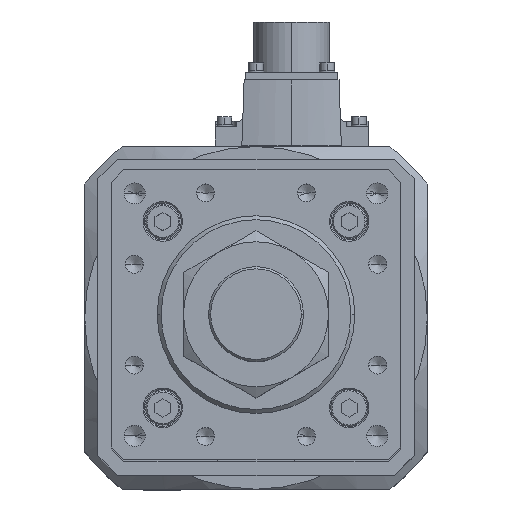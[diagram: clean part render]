
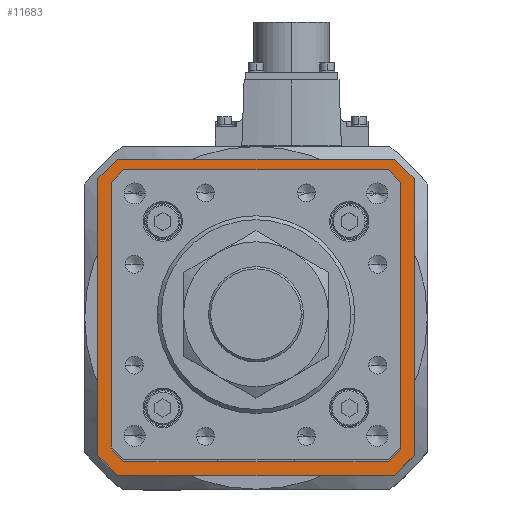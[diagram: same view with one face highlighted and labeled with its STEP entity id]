
A CAD part, top view. The second image highlights one B-rep face of the part: STEP entity #11683.
In plain terms, the highlighted planar face has unit normal (0, 0, 1).
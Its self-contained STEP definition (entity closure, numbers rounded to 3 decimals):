
#839 = LINE ( 'NONE', #12484, #9534 ) ;
#976 = DIRECTION ( 'NONE',  ( 0.707, 0.707, 0. ) ) ;
#1102 = DIRECTION ( 'NONE',  ( -1., 0., 0. ) ) ;
#1626 = CARTESIAN_POINT ( 'NONE',  ( 53.5, 49.593, -119. ) ) ;
#1716 = DIRECTION ( 'NONE',  ( 0., 1., 0. ) ) ;
#2121 = DIRECTION ( 'NONE',  ( 1., 0., 0. ) ) ;
#2127 = EDGE_CURVE ( 'NONE', #36021, #26170, #13682, .T. ) ;
#2142 = VERTEX_POINT ( 'NONE', #21181 ) ;
#2694 = VECTOR ( 'NONE', #11014, 1000. ) ;
#3162 = ORIENTED_EDGE ( 'NONE', *, *, #27899, .F. ) ;
#3385 = FACE_OUTER_BOUND ( 'NONE', #4732, .T. ) ;
#3432 = CARTESIAN_POINT ( 'NONE',  ( 49.446, -53.646, -119. ) ) ;
#3576 = CARTESIAN_POINT ( 'NONE',  ( 60., 52.5, -119. ) ) ;
#3976 = VECTOR ( 'NONE', #26134, 1000. ) ;
#4153 = LINE ( 'NONE', #20704, #25891 ) ;
#4732 = EDGE_LOOP ( 'NONE', ( #35945, #27124, #17310, #8509, #14135, #3162, #36417, #11165 ) ) ;
#4811 = EDGE_CURVE ( 'NONE', #25048, #8400, #22829, .T. ) ;
#4967 = ORIENTED_EDGE ( 'NONE', *, *, #35923, .T. ) ;
#5814 = VECTOR ( 'NONE', #32061, 1000. ) ;
#5867 = EDGE_CURVE ( 'NONE', #17968, #8731, #4153, .T. ) ;
#6456 = CARTESIAN_POINT ( 'NONE',  ( -60., 52.5, -119. ) ) ;
#6519 = ORIENTED_EDGE ( 'NONE', *, *, #2127, .T. ) ;
#6697 = VECTOR ( 'NONE', #1716, 1000. ) ;
#7328 = EDGE_CURVE ( 'NONE', #15823, #10711, #21709, .T. ) ;
#7738 = CARTESIAN_POINT ( 'NONE',  ( -53.5, -49.593, -119. ) ) ;
#7823 = EDGE_CURVE ( 'NONE', #8731, #20785, #8083, .T. ) ;
#8083 = LINE ( 'NONE', #23379, #3976 ) ;
#8321 = EDGE_LOOP ( 'NONE', ( #18821, #9005, #19468, #4967, #9014, #15619, #32481, #6519 ) ) ;
#8400 = VERTEX_POINT ( 'NONE', #23466 ) ;
#8502 = EDGE_CURVE ( 'NONE', #8651, #2142, #24794, .T. ) ;
#8509 = ORIENTED_EDGE ( 'NONE', *, *, #28378, .F. ) ;
#8651 = VERTEX_POINT ( 'NONE', #18257 ) ;
#8731 = VERTEX_POINT ( 'NONE', #1626 ) ;
#8780 = EDGE_CURVE ( 'NONE', #26170, #17968, #34321, .T. ) ;
#9005 = ORIENTED_EDGE ( 'NONE', *, *, #5867, .T. ) ;
#9014 = ORIENTED_EDGE ( 'NONE', *, *, #4811, .T. ) ;
#9067 = CARTESIAN_POINT ( 'NONE',  ( -52.5, -60., -119. ) ) ;
#9465 = DIRECTION ( 'NONE',  ( 0.707, 0.707, 0. ) ) ;
#9534 = VECTOR ( 'NONE', #9465, 1000. ) ;
#9692 = CARTESIAN_POINT ( 'NONE',  ( 52.5, 60., -119. ) ) ;
#9766 = VECTOR ( 'NONE', #26618, 1000. ) ;
#10698 = EDGE_CURVE ( 'NONE', #24889, #12362, #17471, .T. ) ;
#10711 = VERTEX_POINT ( 'NONE', #24226 ) ;
#10805 = VECTOR ( 'NONE', #26683, 1000. ) ;
#11014 = DIRECTION ( 'NONE',  ( -1., 0., 0. ) ) ;
#11165 = ORIENTED_EDGE ( 'NONE', *, *, #30742, .F. ) ;
#11176 = CARTESIAN_POINT ( 'NONE',  ( 49.593, -53.5, -119. ) ) ;
#11683 = ADVANCED_FACE ( 'NONE', ( #24284, #3385 ), #28838, .T. ) ;
#12362 = VERTEX_POINT ( 'NONE', #15760 ) ;
#12484 = CARTESIAN_POINT ( 'NONE',  ( -52.5, 60., -119. ) ) ;
#12891 = DIRECTION ( 'NONE',  ( 0., 0., 1. ) ) ;
#13342 = CARTESIAN_POINT ( 'NONE',  ( -52.5, 60., -119. ) ) ;
#13468 = VERTEX_POINT ( 'NONE', #7738 ) ;
#13682 = LINE ( 'NONE', #29510, #22289 ) ;
#14135 = ORIENTED_EDGE ( 'NONE', *, *, #31635, .F. ) ;
#15099 = DIRECTION ( 'NONE',  ( 0., 1., 0. ) ) ;
#15348 = LINE ( 'NONE', #21013, #10805 ) ;
#15619 = ORIENTED_EDGE ( 'NONE', *, *, #17089, .T. ) ;
#15724 = DIRECTION ( 'NONE',  ( -0.707, 0.707, 0. ) ) ;
#15760 = CARTESIAN_POINT ( 'NONE',  ( 52.5, 60., -119. ) ) ;
#15823 = VERTEX_POINT ( 'NONE', #3576 ) ;
#15891 = DIRECTION ( 'NONE',  ( 0.707, -0.707, 0. ) ) ;
#16071 = CARTESIAN_POINT ( 'NONE',  ( 53.5, -49.593, -119. ) ) ;
#17007 = LINE ( 'NONE', #23567, #33362 ) ;
#17089 = EDGE_CURVE ( 'NONE', #8400, #13468, #15348, .T. ) ;
#17270 = VECTOR ( 'NONE', #37234, 1000. ) ;
#17310 = ORIENTED_EDGE ( 'NONE', *, *, #8502, .F. ) ;
#17471 = LINE ( 'NONE', #9692, #18861 ) ;
#17659 = CARTESIAN_POINT ( 'NONE',  ( 60., -52.5, -119. ) ) ;
#17968 = VERTEX_POINT ( 'NONE', #32173 ) ;
#18012 = VECTOR ( 'NONE', #15099, 1000. ) ;
#18057 = LINE ( 'NONE', #28088, #6697 ) ;
#18257 = CARTESIAN_POINT ( 'NONE',  ( -60., -52.5, -119. ) ) ;
#18328 = DIRECTION ( 'NONE',  ( 1., 0., 0. ) ) ;
#18456 = CARTESIAN_POINT ( 'NONE',  ( 0., 0., -119. ) ) ;
#18821 = ORIENTED_EDGE ( 'NONE', *, *, #8780, .T. ) ;
#18861 = VECTOR ( 'NONE', #20948, 1000. ) ;
#19391 = CARTESIAN_POINT ( 'NONE',  ( 49.8, 53.5, -119. ) ) ;
#19468 = ORIENTED_EDGE ( 'NONE', *, *, #7823, .T. ) ;
#19984 = LINE ( 'NONE', #34318, #17270 ) ;
#19990 = CARTESIAN_POINT ( 'NONE',  ( 52.5, -60., -119. ) ) ;
#20519 = AXIS2_PLACEMENT_3D ( 'NONE', #18456, #12891, #18328 ) ;
#20704 = CARTESIAN_POINT ( 'NONE',  ( 53.646, 49.446, -119. ) ) ;
#20785 = VERTEX_POINT ( 'NONE', #16071 ) ;
#20948 = DIRECTION ( 'NONE',  ( 1., 0., 0. ) ) ;
#21013 = CARTESIAN_POINT ( 'NONE',  ( -53.646, -49.446, -119. ) ) ;
#21181 = CARTESIAN_POINT ( 'NONE',  ( -60., 52.5, -119. ) ) ;
#21549 = CARTESIAN_POINT ( 'NONE',  ( -49.8, -53.5, -119. ) ) ;
#21709 = LINE ( 'NONE', #32175, #5814 ) ;
#22183 = CARTESIAN_POINT ( 'NONE',  ( -53.5, 49.593, -119. ) ) ;
#22289 = VECTOR ( 'NONE', #976, 1000. ) ;
#22829 = LINE ( 'NONE', #21549, #30113 ) ;
#23362 = CARTESIAN_POINT ( 'NONE',  ( -49.593, 53.5, -119. ) ) ;
#23379 = CARTESIAN_POINT ( 'NONE',  ( 53.5, -49.8, -119. ) ) ;
#23466 = CARTESIAN_POINT ( 'NONE',  ( -49.593, -53.5, -119. ) ) ;
#23567 = CARTESIAN_POINT ( 'NONE',  ( -52.5, -60., -119. ) ) ;
#23947 = EDGE_CURVE ( 'NONE', #13468, #36021, #18057, .T. ) ;
#24226 = CARTESIAN_POINT ( 'NONE',  ( 60., -52.5, -119. ) ) ;
#24284 = FACE_BOUND ( 'NONE', #8321, .T. ) ;
#24794 = LINE ( 'NONE', #6456, #18012 ) ;
#24889 = VERTEX_POINT ( 'NONE', #13342 ) ;
#25048 = VERTEX_POINT ( 'NONE', #11176 ) ;
#25891 = VECTOR ( 'NONE', #15891, 1000. ) ;
#26134 = DIRECTION ( 'NONE',  ( 0., -1., 0. ) ) ;
#26170 = VERTEX_POINT ( 'NONE', #23362 ) ;
#26343 = CARTESIAN_POINT ( 'NONE',  ( 52.5, -60., -119. ) ) ;
#26618 = DIRECTION ( 'NONE',  ( -0.707, -0.707, 0. ) ) ;
#26683 = DIRECTION ( 'NONE',  ( -0.707, 0.707, 0. ) ) ;
#27124 = ORIENTED_EDGE ( 'NONE', *, *, #32332, .F. ) ;
#27664 = LINE ( 'NONE', #19990, #2694 ) ;
#27899 = EDGE_CURVE ( 'NONE', #10711, #29743, #29707, .T. ) ;
#28088 = CARTESIAN_POINT ( 'NONE',  ( -53.5, 49.8, -119. ) ) ;
#28378 = EDGE_CURVE ( 'NONE', #37170, #8651, #17007, .T. ) ;
#28838 = PLANE ( 'NONE',  #20519 ) ;
#29288 = DIRECTION ( 'NONE',  ( -0.707, -0.707, 0. ) ) ;
#29510 = CARTESIAN_POINT ( 'NONE',  ( -49.446, 53.646, -119. ) ) ;
#29707 = LINE ( 'NONE', #17659, #37029 ) ;
#29743 = VERTEX_POINT ( 'NONE', #26343 ) ;
#30113 = VECTOR ( 'NONE', #1102, 1000. ) ;
#30134 = LINE ( 'NONE', #3432, #9766 ) ;
#30742 = EDGE_CURVE ( 'NONE', #12362, #15823, #19984, .T. ) ;
#31635 = EDGE_CURVE ( 'NONE', #29743, #37170, #27664, .T. ) ;
#32061 = DIRECTION ( 'NONE',  ( 0., -1., 0. ) ) ;
#32173 = CARTESIAN_POINT ( 'NONE',  ( 49.593, 53.5, -119. ) ) ;
#32175 = CARTESIAN_POINT ( 'NONE',  ( 60., 52.5, -119. ) ) ;
#32332 = EDGE_CURVE ( 'NONE', #2142, #24889, #839, .T. ) ;
#32481 = ORIENTED_EDGE ( 'NONE', *, *, #23947, .T. ) ;
#33362 = VECTOR ( 'NONE', #15724, 1000. ) ;
#33417 = VECTOR ( 'NONE', #2121, 1000. ) ;
#34318 = CARTESIAN_POINT ( 'NONE',  ( 60., 52.5, -119. ) ) ;
#34321 = LINE ( 'NONE', #19391, #33417 ) ;
#35923 = EDGE_CURVE ( 'NONE', #20785, #25048, #30134, .T. ) ;
#35945 = ORIENTED_EDGE ( 'NONE', *, *, #10698, .F. ) ;
#36021 = VERTEX_POINT ( 'NONE', #22183 ) ;
#36417 = ORIENTED_EDGE ( 'NONE', *, *, #7328, .F. ) ;
#37029 = VECTOR ( 'NONE', #29288, 1000. ) ;
#37170 = VERTEX_POINT ( 'NONE', #9067 ) ;
#37234 = DIRECTION ( 'NONE',  ( 0.707, -0.707, 0. ) ) ;
